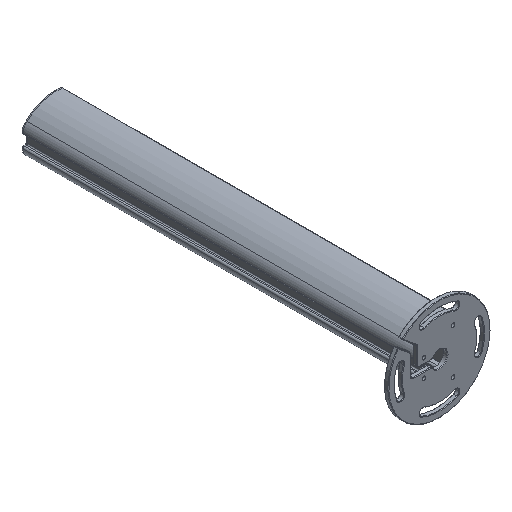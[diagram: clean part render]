
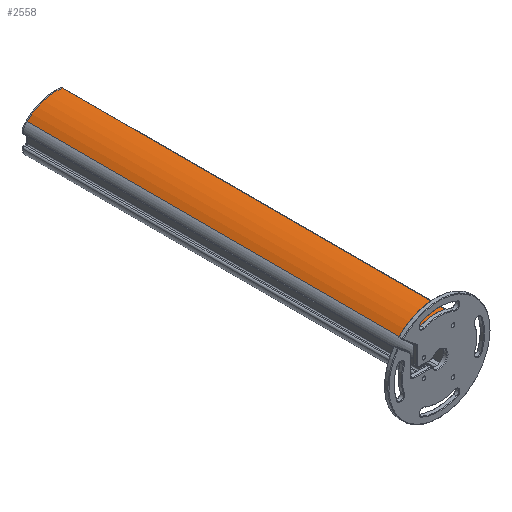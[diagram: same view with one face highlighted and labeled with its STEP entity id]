
A CAD part, isometric view. The second image highlights one B-rep face of the part: STEP entity #2558.
In plain terms, the highlighted cylindrical face has radius 79.059 mm (diameter 158.118 mm), a partial arc.
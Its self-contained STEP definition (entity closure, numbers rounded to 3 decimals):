
#72=CARTESIAN_POINT('',(24.886,-365.,-29.268));
#73=DIRECTION('',(0.,1.,0.));
#74=DIRECTION('',(-0.694,0.,0.72));
#75=AXIS2_PLACEMENT_3D('',#72,#73,#74);
#646=DIRECTION('',(0.,1.,0.));
#647=VECTOR('',#646,730.);
#648=CARTESIAN_POINT('',(35.448,-365.,49.083));
#649=LINE('',#648,#647);
#650=DIRECTION('',(0.,1.,0.));
#651=VECTOR('',#650,730.);
#652=CARTESIAN_POINT('',(-30.018,-365.,27.617));
#653=LINE('',#652,#651);
#1015=CARTESIAN_POINT('',(24.886,365.,-29.268));
#1016=DIRECTION('',(0.,1.,0.));
#1017=DIRECTION('',(-0.694,0.,0.72));
#1018=AXIS2_PLACEMENT_3D('',#1015,#1016,#1017);
#1116=CARTESIAN_POINT('',(-30.018,-365.,27.617));
#1117=VERTEX_POINT('',#1116);
#1118=CARTESIAN_POINT('',(35.448,-365.,49.083));
#1119=VERTEX_POINT('',#1118);
#1282=CARTESIAN_POINT('',(-30.018,365.,27.617));
#1283=VERTEX_POINT('',#1282);
#1284=CARTESIAN_POINT('',(35.448,365.,49.083));
#1285=VERTEX_POINT('',#1284);
#2545=CARTESIAN_POINT('',(24.886,-365.,-29.268));
#2546=DIRECTION('',(0.,1.,0.));
#2547=DIRECTION('',(1.,0.,0.));
#2548=AXIS2_PLACEMENT_3D('',#2545,#2546,#2547);
#2549=CYLINDRICAL_SURFACE('',#2548,79.059);
#2550=ORIENTED_EDGE('',*,*,#1453,.F.);
#2552=ORIENTED_EDGE('',*,*,#2551,.T.);
#2554=ORIENTED_EDGE('',*,*,#2553,.T.);
#2555=ORIENTED_EDGE('',*,*,#2537,.F.);
#2556=EDGE_LOOP('',(#2550,#2552,#2554,#2555));
#2557=FACE_OUTER_BOUND('',#2556,.F.);
#2558=ADVANCED_FACE('',(#2557),#2549,.T.);
#76=CIRCLE('',#75,79.059);
#1019=CIRCLE('',#1018,79.059);
#1453=EDGE_CURVE('',#1117,#1119,#76,.T.);
#2537=EDGE_CURVE('',#1119,#1285,#649,.T.);
#2551=EDGE_CURVE('',#1117,#1283,#653,.T.);
#2553=EDGE_CURVE('',#1283,#1285,#1019,.T.);
